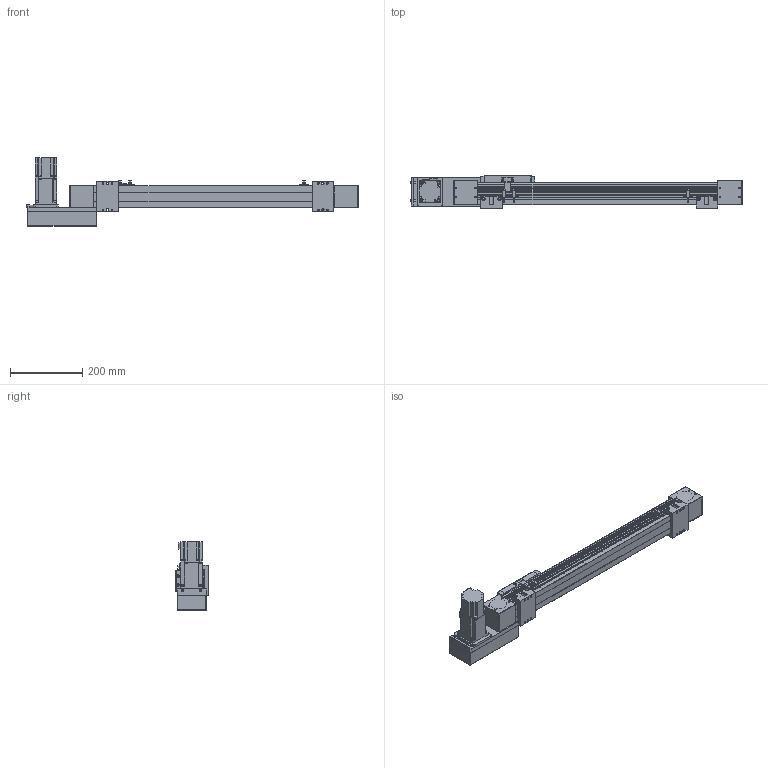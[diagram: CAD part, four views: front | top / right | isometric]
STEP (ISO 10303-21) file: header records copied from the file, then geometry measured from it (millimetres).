
FILE_DESCRIPTION(/* description */ ('STEP AP214'),/* implementation_level */ '2;1');
FILE_NAME(/* name */ 'SK60-P13-S500-L-T40-C1-N(0)',/* time_stamp */ '2023-04-06T04:04:05+02:00',/* author */ ('License CC BY-ND 4.0'),/* organization */ ('CADENAS'),/* preprocessor_version */ 'ST-DEVELOPER v19.3',/* originating_system */ 'PARTsolutions',/* authorisation */ ' ');
FILE_SCHEMA (('AUTOMOTIVE_DESIGN {1 0 10303 214 3 1 1}'));
Length unit declared in the file: millimetre
Products named in the file (10): SK60-P13-S500-L-T40-C1-N(0); PSC140-sensor; SK60-S450_seat; SK60-S450-BL-C1_slider; SK60_body3; SK60_body6; SK60-BL_body2; T40-p1; SK60-L_fb; SK60-S500-L-C1_body
Assembly tree (16 placements, depth 2):
  SK60-P13-S500-L-T40-C1-N(0)
    PSC140-sensor  x3
    SK60-S450_seat  x2
    SK60-S450-BL-C1_slider
    SK60_body3  x3
    SK60_body6  x2
    SK60-BL_body2  x2
    T40-p1
    SK60-L_fb
    SK60-S500-L-C1_body
Bounding box: 920.5 x 90 x 189.7 mm (x, y, z)
Volume: 3968606.3 mm3; surface area: 531604.7 mm2
Topology: 16 solids, 16 shells, 810 faces, 2048 edges, 1349 vertices
Faces by surface type: plane 524, cylinder 262, cone 22, torus 2
Full cylindrical faces by diameter (mm): 2.8 x3, 3.3 x4, 4 x2, 4.5 x30, 4.6 x3, 4.917 x16, 5 x6, 5.478 x4, 5.5 x19, 6.5 x4, 7 x2, 8 x4, 8.5 x4, 9.988 x4, 10 x8, 14 x1, 47 x3, 50 x2
Entity records: 18655 total; most frequent: DIRECTION 3184, CARTESIAN_POINT 3150, ORIENTED_EDGE 2940, EDGE_CURVE 1470, AXIS2_PLACEMENT_3D 1068, LINE 1048, VECTOR 1048, VERTEX_POINT 1034
